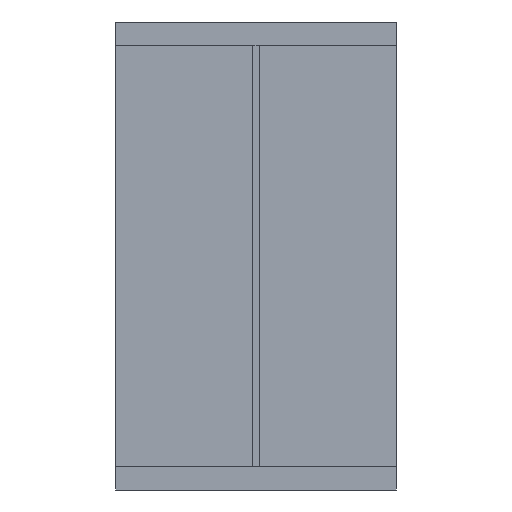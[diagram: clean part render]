
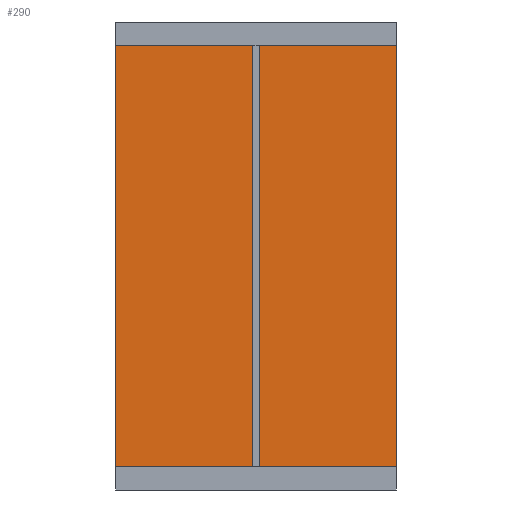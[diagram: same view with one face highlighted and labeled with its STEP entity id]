
A CAD part, front view. The second image highlights one B-rep face of the part: STEP entity #290.
In plain terms, the highlighted planar face has unit normal (0, -1, 0).
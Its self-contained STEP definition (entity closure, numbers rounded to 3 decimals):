
#8 = DIRECTION ( 'NONE',  ( -1., 0., 0. ) ) ;
#28 = DIRECTION ( 'NONE',  ( 1., 0., 0. ) ) ;
#39 = VECTOR ( 'NONE', #1004, 1000. ) ;
#47 = VECTOR ( 'NONE', #8, 1000. ) ;
#53 = VERTEX_POINT ( 'NONE', #326 ) ;
#60 = CARTESIAN_POINT ( 'NONE',  ( 590., 520., 1900. ) ) ;
#77 = VECTOR ( 'NONE', #1468, 1000. ) ;
#89 = DIRECTION ( 'NONE',  ( 0., -1., 0. ) ) ;
#90 = VECTOR ( 'NONE', #934, 1000. ) ;
#92 = EDGE_CURVE ( 'NONE', #951, #1131, #677, .T. ) ;
#101 = LINE ( 'NONE', #1113, #1335 ) ;
#108 = CARTESIAN_POINT ( 'NONE',  ( -590., 520., 100. ) ) ;
#142 = VERTEX_POINT ( 'NONE', #143 ) ;
#143 = CARTESIAN_POINT ( 'NONE',  ( 600., 520., 1900. ) ) ;
#155 = VERTEX_POINT ( 'NONE', #858 ) ;
#186 = VERTEX_POINT ( 'NONE', #60 ) ;
#205 = CARTESIAN_POINT ( 'NONE',  ( -600., 520., 1900. ) ) ;
#215 = DIRECTION ( 'NONE',  ( 0., 0., 1. ) ) ;
#232 = CARTESIAN_POINT ( 'NONE',  ( -600., 520., 100. ) ) ;
#247 = LINE ( 'NONE', #704, #709 ) ;
#248 = VECTOR ( 'NONE', #1476, 1000. ) ;
#289 = ORIENTED_EDGE ( 'NONE', *, *, #826, .F. ) ;
#290 = ADVANCED_FACE ( 'NONE', ( #1482 ), #1217, .T. ) ;
#311 = CARTESIAN_POINT ( 'NONE',  ( -590., 520., 2000. ) ) ;
#312 = ORIENTED_EDGE ( 'NONE', *, *, #595, .F. ) ;
#321 = LINE ( 'NONE', #205, #1069 ) ;
#326 = CARTESIAN_POINT ( 'NONE',  ( -590., 520., 1900. ) ) ;
#336 = EDGE_CURVE ( 'NONE', #1114, #53, #1110, .T. ) ;
#348 = CARTESIAN_POINT ( 'NONE',  ( -600., 520., 1900. ) ) ;
#350 = EDGE_CURVE ( 'NONE', #1131, #1114, #321, .T. ) ;
#353 = LINE ( 'NONE', #108, #657 ) ;
#376 = CARTESIAN_POINT ( 'NONE',  ( -590., 520., 0. ) ) ;
#379 = ORIENTED_EDGE ( 'NONE', *, *, #92, .F. ) ;
#414 = DIRECTION ( 'NONE',  ( 0., 0., -1. ) ) ;
#481 = CARTESIAN_POINT ( 'NONE',  ( -590., 520., 100. ) ) ;
#500 = VERTEX_POINT ( 'NONE', #311 ) ;
#529 = CARTESIAN_POINT ( 'NONE',  ( 590., 520., 2000. ) ) ;
#538 = EDGE_CURVE ( 'NONE', #500, #995, #247, .T. ) ;
#583 = CARTESIAN_POINT ( 'NONE',  ( 590., 520., 1900. ) ) ;
#590 = DIRECTION ( 'NONE',  ( -1., 0., 0. ) ) ;
#595 = EDGE_CURVE ( 'NONE', #142, #155, #981, .T. ) ;
#640 = CARTESIAN_POINT ( 'NONE',  ( 600., 520., 100. ) ) ;
#657 = VECTOR ( 'NONE', #1135, 1000. ) ;
#667 = EDGE_CURVE ( 'NONE', #900, #1161, #101, .T. ) ;
#672 = CARTESIAN_POINT ( 'NONE',  ( -590., 520., 1900. ) ) ;
#677 = LINE ( 'NONE', #1132, #47 ) ;
#695 = AXIS2_PLACEMENT_3D ( 'NONE', #896, #89, #1101 ) ;
#704 = CARTESIAN_POINT ( 'NONE',  ( -590., 520., 2000. ) ) ;
#708 = CARTESIAN_POINT ( 'NONE',  ( 590., 520., 100. ) ) ;
#709 = VECTOR ( 'NONE', #28, 1000. ) ;
#710 = LINE ( 'NONE', #583, #90 ) ;
#719 = ORIENTED_EDGE ( 'NONE', *, *, #941, .F. ) ;
#764 = DIRECTION ( 'NONE',  ( 0., 0., -1. ) ) ;
#775 = LINE ( 'NONE', #1128, #39 ) ;
#779 = LINE ( 'NONE', #640, #248 ) ;
#797 = ORIENTED_EDGE ( 'NONE', *, *, #1428, .F. ) ;
#826 = EDGE_CURVE ( 'NONE', #1341, #951, #353, .T. ) ;
#827 = VECTOR ( 'NONE', #215, 1000. ) ;
#858 = CARTESIAN_POINT ( 'NONE',  ( 600., 520., 100. ) ) ;
#896 = CARTESIAN_POINT ( 'NONE',  ( 0., 520., 0. ) ) ;
#900 = VERTEX_POINT ( 'NONE', #708 ) ;
#934 = DIRECTION ( 'NONE',  ( 1., 0., 0. ) ) ;
#941 = EDGE_CURVE ( 'NONE', #1161, #1341, #1423, .T. ) ;
#951 = VERTEX_POINT ( 'NONE', #481 ) ;
#981 = LINE ( 'NONE', #1462, #1363 ) ;
#995 = VERTEX_POINT ( 'NONE', #529 ) ;
#1004 = DIRECTION ( 'NONE',  ( 0., 0., -1. ) ) ;
#1020 = ORIENTED_EDGE ( 'NONE', *, *, #667, .F. ) ;
#1033 = EDGE_CURVE ( 'NONE', #995, #186, #775, .T. ) ;
#1061 = CARTESIAN_POINT ( 'NONE',  ( -590., 520., 2000. ) ) ;
#1069 = VECTOR ( 'NONE', #1225, 1000. ) ;
#1070 = ORIENTED_EDGE ( 'NONE', *, *, #1033, .F. ) ;
#1082 = ORIENTED_EDGE ( 'NONE', *, *, #336, .F. ) ;
#1091 = ORIENTED_EDGE ( 'NONE', *, *, #538, .F. ) ;
#1100 = EDGE_CURVE ( 'NONE', #186, #142, #710, .T. ) ;
#1101 = DIRECTION ( 'NONE',  ( 0., 0., -1. ) ) ;
#1110 = LINE ( 'NONE', #672, #77 ) ;
#1113 = CARTESIAN_POINT ( 'NONE',  ( 590., 520., 100. ) ) ;
#1114 = VERTEX_POINT ( 'NONE', #348 ) ;
#1128 = CARTESIAN_POINT ( 'NONE',  ( 590., 520., 2000. ) ) ;
#1131 = VERTEX_POINT ( 'NONE', #232 ) ;
#1132 = CARTESIAN_POINT ( 'NONE',  ( -600., 520., 100. ) ) ;
#1135 = DIRECTION ( 'NONE',  ( 0., 0., 1. ) ) ;
#1149 = CARTESIAN_POINT ( 'NONE',  ( -590., 520., 0. ) ) ;
#1157 = ORIENTED_EDGE ( 'NONE', *, *, #1280, .F. ) ;
#1161 = VERTEX_POINT ( 'NONE', #1384 ) ;
#1169 = ORIENTED_EDGE ( 'NONE', *, *, #350, .F. ) ;
#1217 = PLANE ( 'NONE',  #695 ) ;
#1225 = DIRECTION ( 'NONE',  ( 0., 0., 1. ) ) ;
#1280 = EDGE_CURVE ( 'NONE', #53, #500, #1293, .T. ) ;
#1293 = LINE ( 'NONE', #1061, #827 ) ;
#1335 = VECTOR ( 'NONE', #414, 1000. ) ;
#1341 = VERTEX_POINT ( 'NONE', #1149 ) ;
#1347 = EDGE_LOOP ( 'NONE', ( #1169, #379, #289, #719, #1020, #797, #312, #1485, #1070, #1091, #1157, #1082 ) ) ;
#1363 = VECTOR ( 'NONE', #764, 1000. ) ;
#1384 = CARTESIAN_POINT ( 'NONE',  ( 590., 520., 0. ) ) ;
#1423 = LINE ( 'NONE', #376, #1466 ) ;
#1428 = EDGE_CURVE ( 'NONE', #155, #900, #779, .T. ) ;
#1462 = CARTESIAN_POINT ( 'NONE',  ( 600., 520., 1900. ) ) ;
#1466 = VECTOR ( 'NONE', #590, 1000. ) ;
#1468 = DIRECTION ( 'NONE',  ( 1., 0., 0. ) ) ;
#1476 = DIRECTION ( 'NONE',  ( -1., 0., 0. ) ) ;
#1482 = FACE_OUTER_BOUND ( 'NONE', #1347, .T. ) ;
#1485 = ORIENTED_EDGE ( 'NONE', *, *, #1100, .F. ) ;
